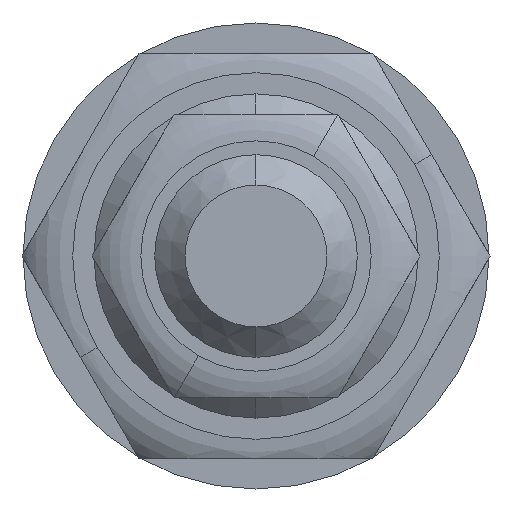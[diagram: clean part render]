
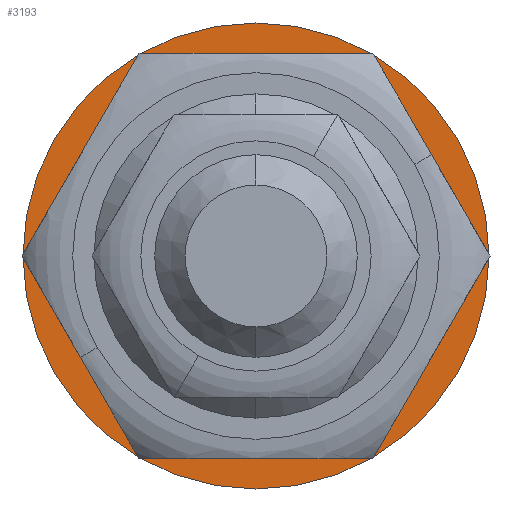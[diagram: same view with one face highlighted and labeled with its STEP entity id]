
A CAD part, front view. The second image highlights one B-rep face of the part: STEP entity #3193.
In plain terms, the highlighted planar face has unit normal (0, -1, 0).
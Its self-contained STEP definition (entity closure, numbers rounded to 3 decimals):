
#112 = AXIS2_PLACEMENT_3D ( 'NONE', #1490, #2536, #771 ) ;
#220 = CARTESIAN_POINT ( 'NONE',  ( 0., 17.25, 5.75 ) ) ;
#287 = PLANE ( 'NONE',  #3092 ) ;
#362 = CARTESIAN_POINT ( 'NONE',  ( 0., 17.25, 2.5 ) ) ;
#738 = CARTESIAN_POINT ( 'NONE',  ( 0., 17.25, 0. ) ) ;
#771 = DIRECTION ( 'NONE',  ( 0., 0., 1. ) ) ;
#783 = EDGE_CURVE ( 'NONE', #2875, #2954, #1666, .T. ) ;
#987 = ORIENTED_EDGE ( 'NONE', *, *, #1439, .T. ) ;
#1003 = CARTESIAN_POINT ( 'NONE',  ( 0., 17.25, 0. ) ) ;
#1099 = CARTESIAN_POINT ( 'NONE',  ( 0., 17.25, -2.5 ) ) ;
#1263 = DIRECTION ( 'NONE',  ( 0., 1., 0. ) ) ;
#1325 = DIRECTION ( 'NONE',  ( 0., 0., 1. ) ) ;
#1352 = FACE_OUTER_BOUND ( 'NONE', #1917, .T. ) ;
#1433 = ORIENTED_EDGE ( 'NONE', *, *, #1599, .F. ) ;
#1439 = EDGE_CURVE ( 'NONE', #2598, #1734, #3082, .T. ) ;
#1490 = CARTESIAN_POINT ( 'NONE',  ( 0., 17.25, 0. ) ) ;
#1549 = DIRECTION ( 'NONE',  ( 0., 0., -1. ) ) ;
#1591 = DIRECTION ( 'NONE',  ( 0., 1., 0. ) ) ;
#1599 = EDGE_CURVE ( 'NONE', #2954, #2875, #2165, .T. ) ;
#1666 = CIRCLE ( 'NONE', #2605, 5.75 ) ;
#1734 = VERTEX_POINT ( 'NONE', #1099 ) ;
#1819 = FACE_BOUND ( 'NONE', #1881, .T. ) ;
#1822 = CARTESIAN_POINT ( 'NONE',  ( 0., 17.25, -5.75 ) ) ;
#1881 = EDGE_LOOP ( 'NONE', ( #987, #2913 ) ) ;
#1917 = EDGE_LOOP ( 'NONE', ( #1433, #3018 ) ) ;
#1996 = AXIS2_PLACEMENT_3D ( 'NONE', #1003, #3312, #2547 ) ;
#2131 = DIRECTION ( 'NONE',  ( 0., -1., 0. ) ) ;
#2153 = CARTESIAN_POINT ( 'NONE',  ( 0., 17.25, 0. ) ) ;
#2165 = CIRCLE ( 'NONE', #2332, 5.75 ) ;
#2309 = DIRECTION ( 'NONE',  ( 0., 0., 1. ) ) ;
#2332 = AXIS2_PLACEMENT_3D ( 'NONE', #2153, #1591, #1325 ) ;
#2536 = DIRECTION ( 'NONE',  ( 0., 1., 0. ) ) ;
#2547 = DIRECTION ( 'NONE',  ( 0., 0., 1. ) ) ;
#2598 = VERTEX_POINT ( 'NONE', #362 ) ;
#2605 = AXIS2_PLACEMENT_3D ( 'NONE', #738, #1263, #2309 ) ;
#2673 = EDGE_CURVE ( 'NONE', #1734, #2598, #2926, .T. ) ;
#2875 = VERTEX_POINT ( 'NONE', #1822 ) ;
#2913 = ORIENTED_EDGE ( 'NONE', *, *, #2673, .T. ) ;
#2926 = CIRCLE ( 'NONE', #1996, 2.5 ) ;
#2954 = VERTEX_POINT ( 'NONE', #3402 ) ;
#3018 = ORIENTED_EDGE ( 'NONE', *, *, #783, .F. ) ;
#3082 = CIRCLE ( 'NONE', #112, 2.5 ) ;
#3092 = AXIS2_PLACEMENT_3D ( 'NONE', #220, #2131, #1549 ) ;
#3193 = ADVANCED_FACE ( 'NONE', ( #1819, #1352 ), #287, .T. ) ;
#3312 = DIRECTION ( 'NONE',  ( 0., 1., 0. ) ) ;
#3402 = CARTESIAN_POINT ( 'NONE',  ( 0., 17.25, 5.75 ) ) ;
